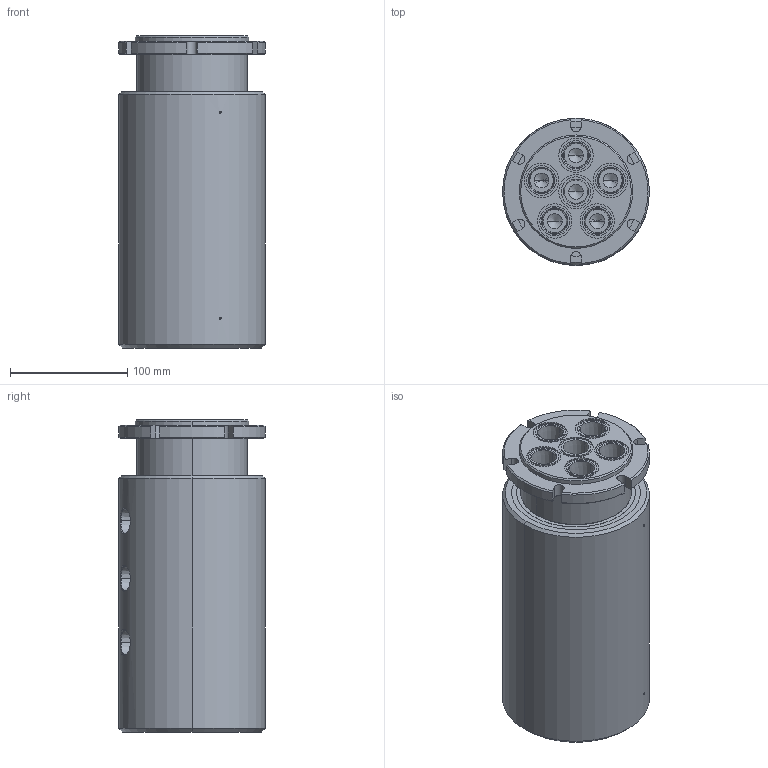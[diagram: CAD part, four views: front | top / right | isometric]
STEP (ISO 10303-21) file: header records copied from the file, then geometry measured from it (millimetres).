
FILE_DESCRIPTION (( 'STEP AP214' ), '1' );
FILE_NAME ('GP(M)-460.STEP', '2013-02-06T13:36:12', ( '' ), ( '' ), 'SwSTEP 2.0', 'SolidWorks 2011', '' );
FILE_SCHEMA (( 'AUTOMOTIVE_DESIGN' ));
Length unit declared in the file: inch
Products named in the file (1): GP(M)-460
Bounding box: 125.4 x 125.4 x 266.55 mm (x, y, z)
Volume: 2953049.2 mm3; surface area: 163306.6 mm2
Topology: 1 solids, 1 shells, 273 faces, 652 edges, 397 vertices
Faces by surface type: cylinder 110, cone 94, plane 55, bspline 12, torus 2
Entity records: 9903 total; most frequent: CARTESIAN_POINT 3337, DIRECTION 1343, ORIENTED_EDGE 1224, EDGE_CURVE 612, AXIS2_PLACEMENT_3D 551, VERTEX_POINT 397, EDGE_LOOP 329, CIRCLE 289
